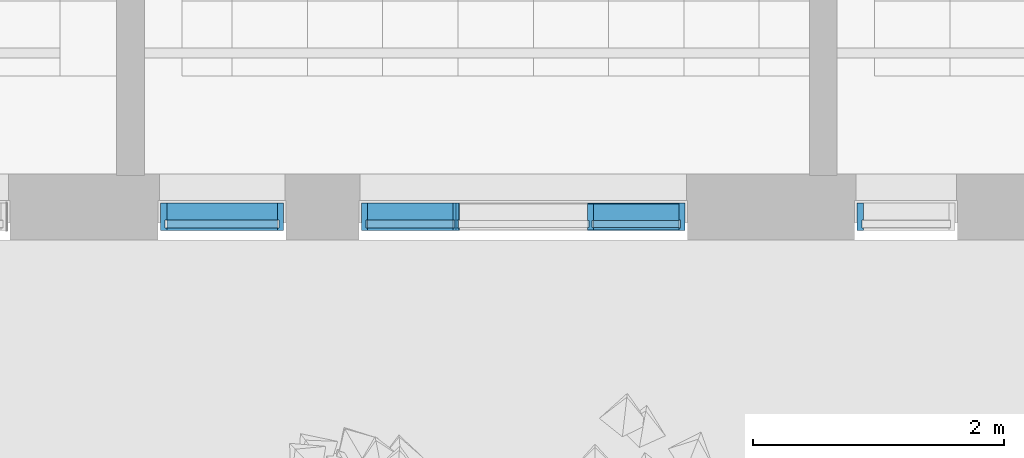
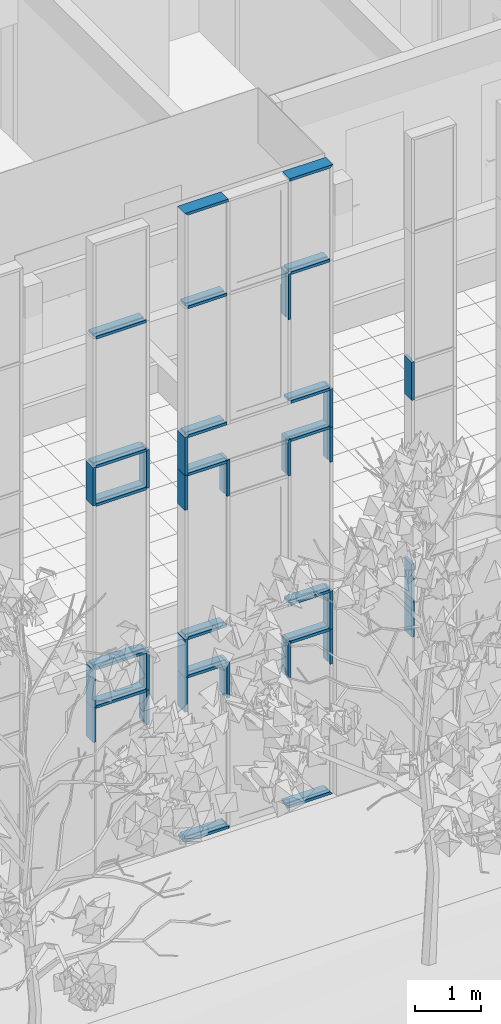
# One storey, part 40 of 246: 42 members, 3 elements without a shape of their own.
"""IFC2X3 building model written with IfcOpenShell, lengths in millimetres."""

from ifc_helpers import new_model, entity, si_unit, converted_unit, derived_unit, money_unit, direction, frame, origin_with_axes, place, context, subcontext, project, spatial, faceted_brep, source, transform, mapped, material, type_object, element, aggregate, save


model = new_model("IFC2X3")

# Units and contexts
model_context = context("Model", 3, precision=0.01, world=origin_with_axes(), true_north=direction((0.0, 1.0)))
body_context = subcontext(model_context, "Body", "Model", "MODEL_VIEW")
ifc_project = project(units=[si_unit("LENGTHUNIT", "METRE", prefix="MILLI"), si_unit("AREAUNIT", "SQUARE_METRE"), si_unit("VOLUMEUNIT", "CUBIC_METRE"), converted_unit("PLANEANGLEUNIT", "DEGREE", entity("IfcPlaneAngleMeasure", 0.0174532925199), si_unit("PLANEANGLEUNIT", "RADIAN"), dimensions=[0, 0, 0, 0, 0, 0, 0]), si_unit("SOLIDANGLEUNIT", "STERADIAN"), money_unit("EUR"), converted_unit("TIMEUNIT", "Year", entity("IfcTimeMeasure", 31556926.0), si_unit("TIMEUNIT", "SECOND"), dimensions=[0, 0, 1, 0, 0, 0, 0]), si_unit("MASSUNIT", "GRAM", prefix="KILO"), si_unit("THERMODYNAMICTEMPERATUREUNIT", "DEGREE_CELSIUS"), si_unit("LUMINOUSINTENSITYUNIT", "LUMEN"), si_unit("ENERGYUNIT", "JOULE", prefix="MEGA"), derived_unit("THERMALCONDUCTANCEUNIT", [(si_unit("POWERUNIT", "WATT"), 1), (si_unit("LENGTHUNIT", "METRE"), -1), (si_unit("THERMODYNAMICTEMPERATUREUNIT", "KELVIN"), -1)]), derived_unit("SPECIFICHEATCAPACITYUNIT", [(si_unit("ENERGYUNIT", "JOULE"), 1), (si_unit("MASSUNIT", "GRAM", prefix="KILO"), -1), (si_unit("THERMODYNAMICTEMPERATUREUNIT", "KELVIN"), -1)]), derived_unit("MASSDENSITYUNIT", [(si_unit("MASSUNIT", "GRAM", prefix="KILO"), 1), (si_unit("VOLUMEUNIT", "CUBIC_METRE"), -1)])], contexts=[model_context])

# Site, building, storey
site_placement = place(None, origin_with_axes())
site = spatial("IfcSite", under=ifc_project, at=site_placement, Name="L.Koidula tn 11b", CompositionType="ELEMENT")
building_placement = place(site_placement, origin_with_axes())
building = spatial("IfcBuilding", under=site, at=building_placement, Name="Rakvere Riigigümnaasium", CompositionType="ELEMENT")
storey_placement = place(building_placement, origin_with_axes())
storey = spatial("IfcBuildingStorey", under=building, at=storey_placement, Name="1.korrus 0,00", CompositionType="ELEMENT", Elevation=0.0)

# Curtain wall, members
curtain_wall_type = type_object("IfcCurtainWallType", Name="Curtain Wall Type", PredefinedType="NOTDEFINED")
curtain_wall_1_placement = place(storey_placement, frame((61650.0002269, 5111.45334637, -8.09717995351e-06), z_axis=(0.0, 0.0, 1.0), x_axis=(1.0, 0.0, 0.0)))
curtain_wall_1 = element("IfcCurtainWall", 1, at=curtain_wall_1_placement, inside=storey, type_object=curtain_wall_type, Name="KLF-05-4B")
ifc_material = material(Name="Alumiiniumprofiil (RAL 7021)")
member_type_1 = type_object("IfcMemberType", Name="Boundary Frame 50 x 222", PredefinedType="MULLION")
shared_shape_1 = source(origin_with_axes(), body_context, "Body", "Brep", [
    faceted_brep([(37.0, -32.5, 705.000000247), (37.0, 32.5, 705.000000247), (50.0, 32.5, 705.000000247), (50.0, 53.0, 705.000000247), (0.0, 53.0, 705.000000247), (0.0, -169.0, 705.000000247), (50.0, -169.0, 705.000000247), (50.0, -32.5, 705.000000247), (37.0, -32.5, 0.0), (37.0, 32.5, 0.0), (50.0, 32.5, 0.0), (50.0, 53.0, 0.0), (0.0, 53.0, 0.0), (0.0, -169.0, 0.0), (50.0, -169.0, 0.0), (50.0, -32.5, 0.0)], [[[0, 1, 2, 3, 4, 5, 6, 7]], [[1, 0, 8, 9]], [[10, 2, 1, 9]], [[2, 10, 11, 3]], [[12, 4, 3, 11]], [[13, 5, 4, 12]], [[14, 6, 5, 13]], [[15, 7, 6, 14]], [[0, 7, 15, 8]], [[8, 15, 14, 13, 12, 11, 10, 9]]]),
])
member_1_placement = place(curtain_wall_1_placement, frame((490.000170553, 0.0, 6760.0), z_axis=(0.0, 0.0, 1.0), x_axis=(-1.0, 0.0, 0.0)))
member_1 = element("IfcMember", 2, at=member_1_placement, type_object=member_type_1, material=ifc_material, Name="KLF-10", ObjectType="MULLION", context=body_context, shape_type="MappedRepresentation", body=[
    mapped(shared_shape_1, transform((0.0, 0.0, 0.0))),
])
member_2_placement = place(curtain_wall_1_placement, frame((490.000170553, 0.0, 3040.0), z_axis=(0.0, 0.0, 1.0), x_axis=(-1.0, 0.0, 0.0)))
member_2 = element("IfcMember", 3, at=member_2_placement, type_object=member_type_1, material=ifc_material, Name="KLF-08", ObjectType="MULLION", context=body_context, shape_type="MappedRepresentation", body=[
    mapped(shared_shape_1, transform((0.0, 0.0, 0.0))),
])

curtain_wall_2_placement = place(storey_placement, frame((63946.9084811, 5111.45334637, -8.0971711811e-06), z_axis=(0.0, 0.0, 1.0), x_axis=(1.0, 0.0, 0.0)))
curtain_wall_2 = element("IfcCurtainWall", 4, at=curtain_wall_2_placement, inside=storey, type_object=curtain_wall_type, Name="KLF-05-3B")
member_3_placement = place(curtain_wall_2_placement, frame((-1186.90871197, 0.0, 3745.0), z_axis=(0.0, 0.0, -1.0), x_axis=(1.0, 0.0, 0.0)))
member_3 = element("IfcMember", 5, at=member_3_placement, type_object=member_type_1, material=ifc_material, Name="KLF-05-9A-Profiilid", ObjectType="MULLION", context=body_context, shape_type="MappedRepresentation", body=[
    mapped(shared_shape_1, transform((0.0, 0.0, 0.0))),
])
member_4_placement = place(curtain_wall_2_placement, frame((-1186.90888468, 0.0, 7465.0), z_axis=(2.44971097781e-07, 0.0, -1.0), x_axis=(1.0, 0.0, 2.44971097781e-07)))
member_4 = element("IfcMember", 6, at=member_4_placement, type_object=member_type_1, material=ifc_material, Name="KLF-05-6A-Profiilid", ObjectType="MULLION", context=body_context, shape_type="MappedRepresentation", body=[
    mapped(shared_shape_1, transform((0.0, 0.0, 0.0))),
])
member_5_placement = place(curtain_wall_2_placement, frame((1393.0913307, 0.0, 6760.0), z_axis=(0.0, 0.0, 1.0), x_axis=(-1.0, 0.0, 0.0)))
member_5 = element("IfcMember", 7, at=member_5_placement, type_object=member_type_1, material=ifc_material, Name="KLF-05-8A-Profiilid", ObjectType="MULLION", context=body_context, shape_type="MappedRepresentation", body=[
    mapped(shared_shape_1, transform((0.0, 0.0, 0.0))),
])
member_6_placement = place(curtain_wall_2_placement, frame((1393.0913307, 0.0, 3040.0), z_axis=(0.0, 0.0, 1.0), x_axis=(-1.0, 0.0, 0.0)))
member_6 = element("IfcMember", 8, at=member_6_placement, type_object=member_type_1, material=ifc_material, Name="KLF-05-5A-Profiilid", ObjectType="MULLION", context=body_context, shape_type="MappedRepresentation", body=[
    mapped(shared_shape_1, transform((0.0, 0.0, 0.0))),
])

# Member
shared_shape_2 = source(origin_with_axes(), body_context, "Body", "Brep", [
    faceted_brep([(37.0, -32.5, 640.0), (37.0, 32.5, 640.0), (50.0, 32.5, 640.0), (50.0, 53.0, 640.0), (0.0, 53.0, 640.0), (0.0, -169.0, 640.0), (50.0, -169.0, 640.0), (50.0, -32.5, 640.0), (37.0, -32.5, 0.0), (37.0, 32.5, 0.0), (50.0, 32.5, 0.0), (50.0, 53.0, 0.0), (0.0, 53.0, 0.0), (0.0, -169.0, 0.0), (50.0, -169.0, 0.0), (50.0, -32.5, 0.0)], [[[0, 1, 2, 3, 4, 5, 6, 7]], [[1, 0, 8, 9]], [[10, 2, 1, 9]], [[2, 10, 11, 3]], [[12, 4, 3, 11]], [[13, 5, 4, 12]], [[14, 6, 5, 13]], [[15, 7, 6, 14]], [[0, 7, 15, 8]], [[8, 15, 14, 13, 12, 11, 10, 9]]]),
])
member_7_placement = place(curtain_wall_1_placement, frame((490.000170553, 0.0, 2400.0), z_axis=(0.0, 0.0, 1.0), x_axis=(-1.0, 0.0, 0.0)))
member_7 = element("IfcMember", 9, at=member_7_placement, type_object=member_type_1, material=ifc_material, Name="KLF-07", ObjectType="MULLION", context=body_context, shape_type="MappedRepresentation", body=[
    mapped(shared_shape_2, transform((0.0, 0.0, 0.0))),
])

member_8_placement = place(curtain_wall_2_placement, frame((-1186.90871197, 0.0, 3040.0), z_axis=(0.0, 0.0, -1.0), x_axis=(1.0, 0.0, 0.0)))
member_8 = element("IfcMember", 10, at=member_8_placement, type_object=member_type_1, material=ifc_material, Name="KLF-05-0A-Profiilid", ObjectType="MULLION", context=body_context, shape_type="MappedRepresentation", body=[
    mapped(shared_shape_2, transform((0.0, 0.0, 0.0))),
])

member_9_placement = place(curtain_wall_2_placement, frame((-1186.90871197, 0.0, 6760.0), z_axis=(0.0, 0.0, -1.0), x_axis=(1.0, 0.0, 0.0)))
member_9 = element("IfcMember", 11, at=member_9_placement, type_object=member_type_1, material=ifc_material, Name="KLF-05-7A-Profiilid", ObjectType="MULLION", context=body_context, shape_type="MappedRepresentation", body=[
    mapped(shared_shape_2, transform((0.0, 0.0, 0.0))),
])

member_10_placement = place(curtain_wall_2_placement, frame((1393.09127348, 0.0, 6120.0), z_axis=(8.94070373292e-08, 0.0, 1.0), x_axis=(-1.0, 0.0, 8.94070373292e-08)))
member_10 = element("IfcMember", 12, at=member_10_placement, type_object=member_type_1, material=ifc_material, Name="KLF-05-7A-Profiilid", ObjectType="MULLION", context=body_context, shape_type="MappedRepresentation", body=[
    mapped(shared_shape_2, transform((0.0, 0.0, 0.0))),
])

member_11_placement = place(curtain_wall_2_placement, frame((1393.09127348, 0.0, 2400.0), z_axis=(8.94070373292e-08, 0.0, 1.0), x_axis=(-1.0, 0.0, 8.94070373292e-08)))
member_11 = element("IfcMember", 13, at=member_11_placement, type_object=member_type_1, material=ifc_material, Name="KLF-05-4A-Profiilid", ObjectType="MULLION", context=body_context, shape_type="MappedRepresentation", body=[
    mapped(shared_shape_2, transform((0.0, 0.0, 0.0))),
])

# Curtain wall, members
curtain_wall_3_placement = place(storey_placement, frame((67100.0002798, 5111.45334637, -1.61944652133e-05), z_axis=(0.0, 0.0, 1.0), x_axis=(1.0, 0.0, 0.0)))
curtain_wall_3 = element("IfcCurtainWall", 14, at=curtain_wall_3_placement, inside=storey, type_object=curtain_wall_type, Name="KLF-05-4A")
shared_shape_3 = source(origin_with_axes(), body_context, "Body", "Brep", [
    faceted_brep([(-37.0, -32.5, 705.0), (-50.0, -32.5, 705.0), (-50.0, -169.0, 705.0), (0.0, -169.0, 705.0), (0.0, 53.0, 705.0), (-50.0, 53.0, 705.0), (-50.0, 32.5, 705.0), (-37.0, 32.5, 705.0), (-37.0, -32.5, 0.0), (-50.0, -32.5, 0.0), (-50.0, -169.0, 0.0), (0.0, -169.0, 0.0), (0.0, 53.0, 0.0), (-50.0, 53.0, 0.0), (-50.0, 32.5, 0.0), (-37.0, 32.5, 0.0)], [[[0, 1, 2, 3, 4, 5, 6, 7]], [[0, 8, 9, 1]], [[9, 10, 2, 1]], [[10, 11, 3, 2]], [[11, 12, 4, 3]], [[12, 13, 5, 4]], [[6, 5, 13, 14]], [[14, 15, 7, 6]], [[7, 15, 8, 0]], [[8, 15, 14, 13, 12, 11, 10, 9]]]),
])
member_12_placement = place(curtain_wall_3_placement, frame((-390.000197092, 0.0, 3040.0), z_axis=(0.0, 0.0, 1.0), x_axis=(-1.0, 0.0, 0.0)))
member_12 = element("IfcMember", 15, at=member_12_placement, type_object=member_type_1, material=ifc_material, Name="KLF-05-0A-Profiilid", ObjectType="MULLION", context=body_context, shape_type="MappedRepresentation", body=[
    mapped(shared_shape_3, transform((0.0, 0.0, 0.0))),
])
member_13_placement = place(curtain_wall_3_placement, frame((-390.000197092, 0.0, 6760.0), z_axis=(0.0, 0.0, 1.0), x_axis=(-1.0, 0.0, 0.0)))
member_13 = element("IfcMember", 16, at=member_13_placement, type_object=member_type_1, material=ifc_material, Name="KLF-05-8A-Profiilid", ObjectType="MULLION", context=body_context, shape_type="MappedRepresentation", body=[
    mapped(shared_shape_3, transform((0.0, 0.0, 0.0))),
])

# Member
member_14_placement = place(curtain_wall_1_placement, frame((-490.000127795, 0.0, 3040.0), z_axis=(0.0, 0.0, 1.0), x_axis=(-1.0, 0.0, 0.0)))
member_14 = element("IfcMember", 17, at=member_14_placement, type_object=member_type_1, material=ifc_material, Name="KLF-18", ObjectType="MULLION", context=body_context, shape_type="MappedRepresentation", body=[
    mapped(shared_shape_3, transform((0.0, 0.0, 0.0))),
])

member_15_placement = place(curtain_wall_1_placement, frame((-490.000127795, 0.0, 6760.0), z_axis=(0.0, 0.0, 1.0), x_axis=(-1.0, 0.0, 0.0)))
member_15 = element("IfcMember", 18, at=member_15_placement, type_object=member_type_1, material=ifc_material, Name="KLF-16", ObjectType="MULLION", context=body_context, shape_type="MappedRepresentation", body=[
    mapped(shared_shape_3, transform((0.0, 0.0, 0.0))),
])

shared_shape_4 = source(origin_with_axes(), body_context, "Body", "Brep", [
    faceted_brep([(-37.0, -32.5, 640.0), (-50.0, -32.5, 640.0), (-50.0, -169.0, 640.0), (0.0, -169.0, 640.0), (0.0, 53.0, 640.0), (-50.0, 53.0, 640.0), (-50.0, 32.5, 640.0), (-37.0, 32.5, 640.0), (-37.0, -32.5, 0.0), (-50.0, -32.5, 0.0), (-50.0, -169.0, 0.0), (0.0, -169.0, 0.0), (0.0, 53.0, 0.0), (-50.0, 53.0, 0.0), (-50.0, 32.5, 0.0), (-37.0, 32.5, 0.0)], [[[0, 1, 2, 3, 4, 5, 6, 7]], [[0, 8, 9, 1]], [[9, 10, 2, 1]], [[10, 11, 3, 2]], [[11, 12, 4, 3]], [[12, 13, 5, 4]], [[6, 5, 13, 14]], [[14, 15, 7, 6]], [[7, 15, 8, 0]], [[8, 15, 14, 13, 12, 11, 10, 9]]]),
])
member_16_placement = place(curtain_wall_3_placement, frame((-390.000197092, 0.0, 2400.0), z_axis=(0.0, 0.0, 1.0), x_axis=(-1.0, 0.0, 0.0)))
member_16 = element("IfcMember", 19, at=member_16_placement, type_object=member_type_1, material=ifc_material, Name="KLF-05-1A-Profiilid", ObjectType="MULLION", context=body_context, shape_type="MappedRepresentation", body=[
    mapped(shared_shape_4, transform((0.0, 0.0, 0.0))),
])

aggregate(curtain_wall_3, [member_16, member_12, member_13])

member_17_placement = place(curtain_wall_1_placement, frame((-490.000127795, 0.0, 2400.0), z_axis=(0.0, 0.0, 1.0), x_axis=(-1.0, 0.0, 0.0)))
member_17 = element("IfcMember", 20, at=member_17_placement, type_object=member_type_1, material=ifc_material, Name="KLF-19", ObjectType="MULLION", context=body_context, shape_type="MappedRepresentation", body=[
    mapped(shared_shape_4, transform((0.0, 0.0, 0.0))),
])

member_type_2 = type_object("IfcMemberType", Name="Mullion Frame 50 x 222", PredefinedType="MULLION")
shared_shape_5 = source(origin_with_axes(), body_context, "Body", "Brep", [
    faceted_brep([(-12.0, -32.5, 665.0), (-25.0, -32.5, 665.0), (-25.0, -169.0, 665.0), (25.0, -169.0, 665.0), (25.0, -32.5, 665.0), (12.0, -32.5, 665.0), (12.0, 32.5, 665.0), (25.0, 32.5, 665.0), (25.0, 53.0, 665.0), (-25.0, 53.0, 665.0), (-25.0, 32.5, 665.0), (-12.0, 32.5, 665.0), (-12.0, -32.5, 0.0), (-25.0, -32.5, 0.0), (-25.0, -169.0, 0.0), (25.0, -169.0, 0.0), (25.0, -32.5, 0.0), (12.0, -32.5, 0.0), (12.0, 32.5, 0.0), (25.0, 32.5, 0.0), (25.0, 53.0, 0.0), (-25.0, 53.0, 0.0), (-25.0, 32.5, 0.0), (-12.0, 32.5, 0.0)], [[[0, 1, 2, 3, 4, 5, 6, 7, 8, 9, 10, 11]], [[1, 0, 12, 13]], [[1, 13, 14, 2]], [[3, 2, 14, 15]], [[4, 3, 15, 16]], [[4, 16, 17, 5]], [[5, 17, 18, 6]], [[7, 6, 18, 19]], [[19, 20, 8, 7]], [[9, 8, 20, 21]], [[22, 10, 9, 21]], [[11, 10, 22, 23]], [[0, 11, 23, 12]], [[23, 22, 21, 20, 19, 18, 17, 16, 15, 14, 13, 12]]]),
])
member_18_placement = place(curtain_wall_2_placement, frame((-431.908628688, 0.0, 2400.0), z_axis=(0.0, 0.0, 1.0), x_axis=(-1.0, 0.0, 0.0)))
member_18 = element("IfcMember", 21, at=member_18_placement, type_object=member_type_2, material=ifc_material, Name="KLF-05-1A-Profiilid", ObjectType="MULLION", context=body_context, shape_type="MappedRepresentation", body=[
    mapped(shared_shape_5, transform((0.0, 0.0, 0.0))),
])

member_19_placement = place(curtain_wall_2_placement, frame((-431.908628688, 0.0, 6120.0), z_axis=(0.0, 0.0, 1.0), x_axis=(-1.0, 0.0, 0.0)))
member_19 = element("IfcMember", 22, at=member_19_placement, type_object=member_type_2, material=ifc_material, Name="KLF-05-8A-Profiilid", ObjectType="MULLION", context=body_context, shape_type="MappedRepresentation", body=[
    mapped(shared_shape_5, transform((0.0, 0.0, 0.0))),
])

member_type_3 = type_object("IfcMemberType", Name="50 x 208", PredefinedType="MULLION")
shared_shape_6 = source(origin_with_axes(), body_context, "Body", "Brep", [
    faceted_brep([(-12.0, -27.0, 665.0), (-25.0, -27.0, 665.0), (-25.0, -160.0, 665.0), (25.0, -160.0, 665.0), (25.0, -27.0, 665.0), (12.0, -27.0, 665.0), (12.0, 27.0, 665.0), (25.0, 27.0, 665.0), (25.0, 48.0, 665.0), (-25.0, 48.0, 665.0), (-25.0, 27.0, 665.0), (-12.0, 27.0, 665.0), (-12.0, -27.0, 0.0), (-25.0, -27.0, 0.0), (-25.0, -160.0, 0.0), (25.0, -160.0, 0.0), (25.0, -27.0, 0.0), (12.0, -27.0, 0.0), (12.0, 27.0, 0.0), (25.0, 27.0, 0.0), (25.0, 48.0, 0.0), (-25.0, 48.0, 0.0), (-25.0, 27.0, 0.0), (-12.0, 27.0, 0.0)], [[[0, 1, 2, 3, 4, 5, 6, 7, 8, 9, 10, 11]], [[1, 0, 12, 13]], [[1, 13, 14, 2]], [[3, 2, 14, 15]], [[4, 3, 15, 16]], [[4, 16, 17, 5]], [[5, 17, 18, 6]], [[7, 6, 18, 19]], [[19, 20, 8, 7]], [[9, 8, 20, 21]], [[22, 10, 9, 21]], [[11, 10, 22, 23]], [[0, 11, 23, 12]], [[23, 22, 21, 20, 19, 18, 17, 16, 15, 14, 13, 12]]]),
])
member_20_placement = place(curtain_wall_2_placement, frame((638.091371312, 0.0, 2400.0), z_axis=(0.0, 0.0, 1.0), x_axis=(-1.0, 0.0, 0.0)))
member_20 = element("IfcMember", 23, at=member_20_placement, type_object=member_type_3, material=ifc_material, Name="KLF-41", ObjectType="MULLION", context=body_context, shape_type="MappedRepresentation", body=[
    mapped(shared_shape_6, transform((0.0, 0.0, 0.0))),
])

member_21_placement = place(curtain_wall_2_placement, frame((638.091371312, 0.0, 6120.0), z_axis=(0.0, 0.0, 1.0), x_axis=(-1.0, 0.0, 0.0)))
member_21 = element("IfcMember", 24, at=member_21_placement, type_object=member_type_3, material=ifc_material, Name="KLF-96", ObjectType="MULLION", context=body_context, shape_type="MappedRepresentation", body=[
    mapped(shared_shape_6, transform((0.0, 0.0, 0.0))),
])

member_type_4 = type_object("IfcMemberType", Name="Transom Frame 50 x 222", PredefinedType="MULLION")
shared_shape_7 = source(origin_with_axes(), body_context, "Body", "Brep", [
    faceted_brep([(-12.0, -32.5, 730.000255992), (-25.0, -32.5, 730.000255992), (-25.0, -169.0, 730.000255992), (25.0, -169.0, 730.000255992), (25.0, -32.5, 730.000255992), (12.0, -32.5, 730.000255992), (12.0, 32.5, 730.000255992), (25.0, 32.5, 730.000255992), (25.0, 53.0, 730.000255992), (-25.0, 53.0, 730.000255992), (-25.0, 32.5, 730.000255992), (-12.0, 32.5, 730.000255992), (-12.0, -32.5, 50.0), (-25.0, -32.5, 50.0), (-25.0, -169.0, 50.0), (25.0, -169.0, 50.0), (25.0, -32.5, 50.0), (12.0, -32.5, 50.0), (12.0, 32.5, 50.0), (25.0, 32.5, 50.0), (25.0, 53.0, 50.0), (-25.0, 53.0, 50.0), (-25.0, 32.5, 50.0), (-12.0, 32.5, 50.0)], [[[0, 1, 2, 3, 4, 5, 6, 7, 8, 9, 10, 11]], [[1, 0, 12, 13]], [[1, 13, 14, 2]], [[2, 14, 15, 3]], [[4, 3, 15, 16]], [[4, 16, 17, 5]], [[5, 17, 18, 6]], [[7, 6, 18, 19]], [[19, 20, 8, 7]], [[8, 20, 21, 9]], [[22, 10, 9, 21]], [[11, 10, 22, 23]], [[0, 11, 23, 12]], [[23, 22, 21, 20, 19, 18, 17, 16, 15, 14, 13, 12]]]),
])
member_22_placement = place(curtain_wall_2_placement, frame((-1186.90888468, 0.0, 7465.0), z_axis=(1.0, 0.0, 0.0), x_axis=(0.0, 0.0, 1.0)))
member_22 = element("IfcMember", 25, at=member_22_placement, type_object=member_type_4, material=ifc_material, Name="KLF-05-2A-Profiilid", ObjectType="MULLION", context=body_context, shape_type="MappedRepresentation", body=[
    mapped(shared_shape_7, transform((0.0, 0.0, 0.0))),
])

member_23_placement = place(curtain_wall_2_placement, frame((-1186.90871197, 0.0, 6760.0), z_axis=(1.0, 0.0, 0.0), x_axis=(0.0, 0.0, 1.0)))
member_23 = element("IfcMember", 26, at=member_23_placement, type_object=member_type_4, material=ifc_material, Name="KLF-05-0A-Profiilid", ObjectType="MULLION", context=body_context, shape_type="MappedRepresentation", body=[
    mapped(shared_shape_7, transform((0.0, 0.0, 0.0))),
])

member_24_placement = place(curtain_wall_2_placement, frame((-1186.90888468, 0.0, 9840.0), z_axis=(1.0, 0.0, 0.0), x_axis=(0.0, 0.0, 1.0)))
member_24 = element("IfcMember", 27, at=member_24_placement, type_object=member_type_4, material=ifc_material, Name="KLF-05-4A-Profiilid", ObjectType="MULLION", context=body_context, shape_type="MappedRepresentation", body=[
    mapped(shared_shape_7, transform((0.0, 0.0, 0.0))),
])

member_25_placement = place(curtain_wall_2_placement, frame((-1186.90871197, 0.0, 3745.0), z_axis=(1.0, 0.0, 0.0), x_axis=(0.0, 0.0, 1.0)))
member_25 = element("IfcMember", 28, at=member_25_placement, type_object=member_type_4, material=ifc_material, Name="KLF-05-6A-Profiilid", ObjectType="MULLION", context=body_context, shape_type="MappedRepresentation", body=[
    mapped(shared_shape_7, transform((0.0, 0.0, 0.0))),
])

member_26_placement = place(curtain_wall_2_placement, frame((-1186.90871197, 0.0, 3040.0), z_axis=(1.0, 0.0, 0.0), x_axis=(0.0, 0.0, 1.0)))
member_26 = element("IfcMember", 29, at=member_26_placement, type_object=member_type_4, material=ifc_material, Name="KLF-05-0A-Profiilid", ObjectType="MULLION", context=body_context, shape_type="MappedRepresentation", body=[
    mapped(shared_shape_7, transform((0.0, 0.0, 0.0))),
])

shared_shape_8 = source(origin_with_axes(), body_context, "Body", "Brep", [
    faceted_brep([(-12.0, -27.0, 704.999959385), (-25.0, -27.0, 704.999959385), (-25.0, -160.0, 704.999959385), (25.0, -160.0, 704.999959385), (25.0, -27.0, 704.999959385), (12.0, -27.0, 704.999959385), (12.0, 27.0, 704.999959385), (25.0, 27.0, 704.999959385), (25.0, 48.0, 704.999959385), (-25.0, 48.0, 704.999959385), (-25.0, 27.0, 704.999959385), (-12.0, 27.0, 704.999959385), (-12.0, -27.0, 25.0), (-25.0, -27.0, 25.0), (-25.0, -160.0, 25.0), (25.0, -160.0, 25.0), (25.0, -27.0, 25.0), (12.0, -27.0, 25.0), (12.0, 27.0, 25.0), (25.0, 27.0, 25.0), (25.0, 48.0, 25.0), (-25.0, 48.0, 25.0), (-25.0, 27.0, 25.0), (-12.0, 27.0, 25.0)], [[[0, 1, 2, 3, 4, 5, 6, 7, 8, 9, 10, 11]], [[1, 0, 12, 13]], [[1, 13, 14, 2]], [[2, 14, 15, 3]], [[4, 3, 15, 16]], [[4, 16, 17, 5]], [[5, 17, 18, 6]], [[7, 6, 18, 19]], [[19, 20, 8, 7]], [[8, 20, 21, 9]], [[22, 10, 9, 21]], [[11, 10, 22, 23]], [[0, 11, 23, 12]], [[23, 22, 21, 20, 19, 18, 17, 16, 15, 14, 13, 12]]]),
])
member_27_placement = place(curtain_wall_2_placement, frame((638.091371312, 0.0, 7465.0), z_axis=(1.0, 0.0, 0.0), x_axis=(0.0, 0.0, 1.0)))
member_27 = element("IfcMember", 30, at=member_27_placement, type_object=member_type_3, material=ifc_material, Name="KLF-57", ObjectType="MULLION", context=body_context, shape_type="MappedRepresentation", body=[
    mapped(shared_shape_8, transform((0.0, 0.0, 0.0))),
])

member_28_placement = place(curtain_wall_2_placement, frame((638.091371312, 0.0, 6760.0), z_axis=(1.0, 0.0, 0.0), x_axis=(0.0, 0.0, 1.0)))
member_28 = element("IfcMember", 31, at=member_28_placement, type_object=member_type_3, material=ifc_material, Name="KLF-33", ObjectType="MULLION", context=body_context, shape_type="MappedRepresentation", body=[
    mapped(shared_shape_8, transform((0.0, 0.0, 0.0))),
])

member_29_placement = place(curtain_wall_2_placement, frame((638.091371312, 0.0, 3745.0), z_axis=(1.0, 0.0, 0.0), x_axis=(0.0, 0.0, 1.0)))
member_29 = element("IfcMember", 32, at=member_29_placement, type_object=member_type_3, material=ifc_material, Name="KLF-08", ObjectType="MULLION", context=body_context, shape_type="MappedRepresentation", body=[
    mapped(shared_shape_8, transform((0.0, 0.0, 0.0))),
])

member_30_placement = place(curtain_wall_2_placement, frame((638.091371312, 0.0, 3040.0), z_axis=(1.0, 0.0, 0.0), x_axis=(0.0, 0.0, 1.0)))
member_30 = element("IfcMember", 33, at=member_30_placement, type_object=member_type_3, material=ifc_material, Name="KLF-09", ObjectType="MULLION", context=body_context, shape_type="MappedRepresentation", body=[
    mapped(shared_shape_8, transform((0.0, 0.0, 0.0))),
])

shared_shape_9 = source(origin_with_axes(), body_context, "Body", "Brep", [
    faceted_brep([(-12.0, -32.5, 930.000298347), (-25.0, -32.5, 930.000298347), (-25.0, -169.0, 930.000298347), (25.0, -169.0, 930.000298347), (25.0, -32.5, 930.000298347), (12.0, -32.5, 930.000298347), (12.0, 32.5, 930.000298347), (25.0, 32.5, 930.000298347), (25.0, 53.0, 930.000298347), (-25.0, 53.0, 930.000298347), (-25.0, 32.5, 930.000298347), (-12.0, 32.5, 930.000298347), (-12.0, -32.5, 50.0), (-25.0, -32.5, 50.0), (-25.0, -169.0, 50.0), (25.0, -169.0, 50.0), (25.0, -32.5, 50.0), (12.0, -32.5, 50.0), (12.0, 32.5, 50.0), (25.0, 32.5, 50.0), (25.0, 53.0, 50.0), (-25.0, 53.0, 50.0), (-25.0, 32.5, 50.0), (-12.0, 32.5, 50.0)], [[[0, 1, 2, 3, 4, 5, 6, 7, 8, 9, 10, 11]], [[1, 0, 12, 13]], [[1, 13, 14, 2]], [[2, 14, 15, 3]], [[4, 3, 15, 16]], [[4, 16, 17, 5]], [[5, 17, 18, 6]], [[7, 6, 18, 19]], [[19, 20, 8, 7]], [[8, 20, 21, 9]], [[22, 10, 9, 21]], [[11, 10, 22, 23]], [[0, 11, 23, 12]], [[23, 22, 21, 20, 19, 18, 17, 16, 15, 14, 13, 12]]]),
])
member_31_placement = place(curtain_wall_1_placement, frame((-490.000127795, 0.0, 9840.0), z_axis=(1.0, 0.0, 0.0), x_axis=(0.0, 0.0, 1.0)))
member_31 = element("IfcMember", 34, at=member_31_placement, type_object=member_type_4, material=ifc_material, Name="KLF-50", ObjectType="MULLION", context=body_context, shape_type="MappedRepresentation", body=[
    mapped(shared_shape_9, transform((0.0, 0.0, 0.0))),
])

member_32_placement = place(curtain_wall_1_placement, frame((-490.000127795, 0.0, 7465.0), z_axis=(1.0, 0.0, 0.0), x_axis=(0.0, 0.0, 1.0)))
member_32 = element("IfcMember", 35, at=member_32_placement, type_object=member_type_4, material=ifc_material, Name="KLF-51", ObjectType="MULLION", context=body_context, shape_type="MappedRepresentation", body=[
    mapped(shared_shape_9, transform((0.0, 0.0, 0.0))),
])

member_33_placement = place(curtain_wall_1_placement, frame((-490.000127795, 0.0, 6760.0), z_axis=(1.0, 0.0, 0.0), x_axis=(0.0, 0.0, 1.0)))
member_33 = element("IfcMember", 36, at=member_33_placement, type_object=member_type_4, material=ifc_material, Name="KLF-52", ObjectType="MULLION", context=body_context, shape_type="MappedRepresentation", body=[
    mapped(shared_shape_9, transform((0.0, 0.0, 0.0))),
])

member_34_placement = place(curtain_wall_1_placement, frame((-490.000127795, 0.0, 3745.0), z_axis=(1.0, 0.0, 0.0), x_axis=(0.0, 0.0, 1.0)))
member_34 = element("IfcMember", 37, at=member_34_placement, type_object=member_type_4, material=ifc_material, Name="KLF-67", ObjectType="MULLION", context=body_context, shape_type="MappedRepresentation", body=[
    mapped(shared_shape_9, transform((0.0, 0.0, 0.0))),
])

member_35_placement = place(curtain_wall_1_placement, frame((-490.000127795, 0.0, 3040.0), z_axis=(1.0, 0.0, 0.0), x_axis=(0.0, 0.0, 1.0)))
member_35 = element("IfcMember", 38, at=member_35_placement, type_object=member_type_4, material=ifc_material, Name="KLF-68", ObjectType="MULLION", context=body_context, shape_type="MappedRepresentation", body=[
    mapped(shared_shape_9, transform((0.0, 0.0, 0.0))),
])

aggregate(curtain_wall_1, [member_17, member_14, member_15, member_31, member_32, member_33, member_1, member_34, member_2, member_35, member_7])

shared_shape_10 = source(origin_with_axes(), body_context, "Body", "Brep", [
    faceted_brep([(-12.0, -32.5, 840.0), (-25.0, -32.5, 840.0), (-25.0, -169.0, 840.0), (25.0, -169.0, 840.0), (25.0, -32.5, 840.0), (12.0, -32.5, 840.0), (12.0, 32.5, 840.0), (25.0, 32.5, 840.0), (25.0, 53.0, 840.0), (-25.0, 53.0, 840.0), (-25.0, 32.5, 840.0), (-12.0, 32.5, 840.0), (-12.0, -32.5, 0.0), (-25.0, -32.5, 0.0), (-25.0, -169.0, 0.0), (25.0, -169.0, 0.0), (25.0, -32.5, 0.0), (12.0, -32.5, 0.0), (12.0, 32.5, 0.0), (25.0, 32.5, 0.0), (25.0, 53.0, 0.0), (-25.0, 53.0, 0.0), (-25.0, 32.5, 0.0), (-12.0, 32.5, 0.0)], [[[0, 1, 2, 3, 4, 5, 6, 7, 8, 9, 10, 11]], [[1, 0, 12, 13]], [[1, 13, 14, 2]], [[3, 2, 14, 15]], [[4, 3, 15, 16]], [[4, 16, 17, 5]], [[5, 17, 18, 6]], [[7, 6, 18, 19]], [[19, 20, 8, 7]], [[9, 8, 20, 21]], [[22, 10, 9, 21]], [[11, 10, 22, 23]], [[0, 11, 23, 12]], [[23, 22, 21, 20, 19, 18, 17, 16, 15, 14, 13, 12]]]),
])
member_36_placement = place(curtain_wall_2_placement, frame((638.091371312, 0.0, 9000.0), z_axis=(0.0, 0.0, 1.0), x_axis=(-1.0, 0.0, 0.0)))
member_36 = element("IfcMember", 39, at=member_36_placement, type_object=member_type_2, material=ifc_material, Name="KLF-05-3A-Profiilid", ObjectType="MULLION", context=body_context, shape_type="MappedRepresentation", body=[
    mapped(shared_shape_10, transform((0.0, 0.0, 0.0))),
])

shared_shape_11 = source(origin_with_axes(), body_context, "Body", "Brep", [
    faceted_brep([(37.0, -32.5, 755.000083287), (37.0, 32.5, 755.000083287), (50.0, 32.5, 755.000083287), (50.0, 53.0, 755.000083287), (0.0, 53.0, 755.000083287), (0.0, -169.0, 755.000083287), (50.0, -169.0, 755.000083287), (50.0, -32.5, 755.000083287), (37.0, -32.5, 37.0), (37.0, 32.5, 37.0), (50.0, 32.5, 50.0), (50.0, 53.0, 50.0), (0.0, 53.0, 0.0), (0.0, -169.0, 0.0), (50.0, -169.0, 50.0), (50.0, -32.5, 50.0)], [[[0, 1, 2, 3, 4, 5, 6, 7]], [[1, 0, 8, 9]], [[10, 2, 1, 9]], [[2, 10, 11, 3]], [[4, 3, 11, 12]], [[5, 4, 12, 13]], [[6, 5, 13, 14]], [[15, 7, 6, 14]], [[0, 7, 15, 8]], [[8, 15, 14, 13, 12, 11, 10, 9]]]),
])
member_37_placement = place(curtain_wall_2_placement, frame((-1186.90871197, 0.0, 0.0), z_axis=(1.0, 0.0, 0.0), x_axis=(0.0, 0.0, 1.0)))
member_37 = element("IfcMember", 40, at=member_37_placement, type_object=member_type_1, material=ifc_material, Name="KLF-05-0A-Profiilid", ObjectType="MULLION", context=body_context, shape_type="MappedRepresentation", body=[
    mapped(shared_shape_11, transform((0.0, 0.0, 0.0))),
])

member_38_placement = place(curtain_wall_2_placement, frame((1393.09130904, 0.0, 11590.0000411), z_axis=(-1.0, 0.0, 0.0), x_axis=(0.0, 0.0, -1.0)))
member_38 = element("IfcMember", 41, at=member_38_placement, type_object=member_type_1, material=ifc_material, Name="KLF-05-1A-Profiilid", ObjectType="MULLION", context=body_context, shape_type="MappedRepresentation", body=[
    mapped(shared_shape_11, transform((0.0, 0.0, 0.0))),
])

shared_shape_12 = source(origin_with_axes(), body_context, "Body", "Brep", [
    faceted_brep([(37.0, -32.5, 19.5432673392), (37.0, 32.5, 19.5432673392), (50.0, 32.5, 19.5432673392), (50.0, 53.0, 19.5432673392), (0.0, 53.0, 19.5432673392), (0.0, -169.0, 19.5432673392), (50.0, -169.0, 19.5432673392), (50.0, -32.5, 19.5432673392), (37.0, -32.5, 0.0), (37.0, 32.5, 0.0), (50.0, 32.5, 0.0), (50.0, 53.0, 0.0), (0.0, 53.0, 0.0), (0.0, -169.0, 0.0), (50.0, -169.0, 0.0), (50.0, -32.5, 0.0)], [[[0, 1, 2, 3, 4, 5, 6, 7]], [[1, 0, 8, 9]], [[10, 2, 1, 9]], [[2, 10, 11, 3]], [[12, 4, 3, 11]], [[13, 5, 4, 12]], [[14, 6, 5, 13]], [[15, 7, 6, 14]], [[0, 7, 15, 8]], [[8, 15, 14, 13, 12, 11, 10, 9]]]),
])
member_39_placement = place(curtain_wall_2_placement, frame((-431.908628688, 0.0, 0.0), z_axis=(1.0, 0.0, 0.0), x_axis=(0.0, 0.0, 1.0)))
member_39 = element("IfcMember", 42, at=member_39_placement, type_object=member_type_1, material=ifc_material, Name="KLF-05-1A-Profiilid", ObjectType="MULLION", context=body_context, shape_type="MappedRepresentation", body=[
    mapped(shared_shape_12, transform((0.0, 0.0, 0.0))),
])

shared_shape_13 = source(origin_with_axes(), body_context, "Body", "Brep", [
    faceted_brep([(37.0, -27.0, 717.999958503), (37.0, 27.0, 717.999958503), (50.0, 27.0, 704.999958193), (50.0, 48.0, 704.999958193), (0.0, 48.0, 754.999959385), (0.0, -160.0, 754.999959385), (50.0, -160.0, 704.999958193), (50.0, -27.0, 704.999958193), (37.0, -27.0, -25.0), (37.0, 27.0, -25.0), (50.0, 27.0, -25.0), (50.0, 48.0, -25.0), (0.0, 48.0, -25.0), (0.0, -160.0, -25.0), (50.0, -160.0, -25.0), (50.0, -27.0, -25.0)], [[[0, 1, 2, 3, 4, 5, 6, 7]], [[1, 0, 8, 9]], [[10, 2, 1, 9]], [[2, 10, 11, 3]], [[12, 4, 3, 11]], [[13, 5, 4, 12]], [[14, 6, 5, 13]], [[15, 7, 6, 14]], [[0, 7, 15, 8]], [[8, 15, 14, 13, 12, 11, 10, 9]]]),
])
member_40_placement = place(curtain_wall_2_placement, frame((638.091371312, 0.0, 0.0), z_axis=(1.0, 0.0, 0.0), x_axis=(0.0, 0.0, 1.0)))
member_40 = element("IfcMember", 43, at=member_40_placement, type_object=member_type_3, material=ifc_material, Name="KLF-55", ObjectType="MULLION", context=body_context, shape_type="MappedRepresentation", body=[
    mapped(shared_shape_13, transform((0.0, 0.0, 0.0))),
])

shared_shape_14 = source(origin_with_axes(), body_context, "Body", "Brep", [
    faceted_brep([(-12.0, -32.5, 704.99994074), (-25.0, -32.5, 704.99994074), (-25.0, -169.0, 704.999939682), (25.0, -169.0, 704.999939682), (25.0, -32.5, 704.99994074), (12.0, -32.5, 704.99994074), (12.0, 32.5, 704.999941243), (25.0, 32.5, 704.999941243), (25.0, 53.0, 704.999941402), (-25.0, 53.0, 704.999941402), (-25.0, 32.5, 704.999941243), (-12.0, 32.5, 704.999941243), (-12.0, -32.5, 25.0), (-25.0, -32.5, 25.0), (-25.0, -169.0, 25.0), (25.0, -169.0, 25.0), (25.0, -32.5, 25.0), (12.0, -32.5, 25.0), (12.0, 32.5, 25.0), (25.0, 32.5, 25.0), (25.0, 53.0, 25.0), (-25.0, 53.0, 25.0), (-25.0, 32.5, 25.0), (-12.0, 32.5, 25.0)], [[[0, 1, 2, 3, 4, 5, 6, 7, 8, 9, 10, 11]], [[1, 0, 12, 13]], [[1, 13, 14, 2]], [[2, 14, 15, 3]], [[4, 3, 15, 16]], [[4, 16, 17, 5]], [[5, 17, 18, 6]], [[7, 6, 18, 19]], [[19, 20, 8, 7]], [[8, 20, 21, 9]], [[22, 10, 9, 21]], [[11, 10, 22, 23]], [[0, 11, 23, 12]], [[23, 22, 21, 20, 19, 18, 17, 16, 15, 14, 13, 12]]]),
])
member_41_placement = place(curtain_wall_2_placement, frame((638.091371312, 0.0, 9840.0), z_axis=(1.0, 0.0, 0.0), x_axis=(0.0, 0.0, 1.0)))
member_41 = element("IfcMember", 44, at=member_41_placement, type_object=member_type_4, material=ifc_material, Name="KLF-05-1A-Profiilid", ObjectType="MULLION", context=body_context, shape_type="MappedRepresentation", body=[
    mapped(shared_shape_14, transform((0.0, 0.0, 0.0))),
])

shared_shape_15 = source(origin_with_axes(), body_context, "Body", "Brep", [
    faceted_brep([(37.0, -32.5, 718.000273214), (37.0, 32.5, 718.000273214), (50.0, 32.5, 705.000273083), (50.0, 53.0, 705.000273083), (0.0, 53.0, 755.000273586), (0.0, -169.0, 755.000273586), (50.0, -169.0, 705.000273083), (50.0, -32.5, 705.000273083), (37.0, -32.5, 0.0), (37.0, 32.5, 0.0), (50.0, 32.5, 0.0), (50.0, 53.0, 0.0), (0.0, 53.0, 0.0), (0.0, -169.0, 0.0), (50.0, -169.0, 0.0), (50.0, -32.5, 0.0)], [[[0, 1, 2, 3, 4, 5, 6, 7]], [[1, 0, 8, 9]], [[10, 2, 1, 9]], [[2, 10, 11, 3]], [[12, 4, 3, 11]], [[13, 5, 4, 12]], [[14, 6, 5, 13]], [[15, 7, 6, 14]], [[0, 7, 15, 8]], [[8, 15, 14, 13, 12, 11, 10, 9]]]),
])
member_42_placement = place(curtain_wall_2_placement, frame((-431.908628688, 0.0, 11590.0000411), z_axis=(-1.0, 0.0, 0.0), x_axis=(0.0, 0.0, -1.0)))
member_42 = element("IfcMember", 45, at=member_42_placement, type_object=member_type_1, material=ifc_material, Name="KLF-05-3A-Profiilid", ObjectType="MULLION", context=body_context, shape_type="MappedRepresentation", body=[
    mapped(shared_shape_15, transform((0.0, 0.0, 0.0))),
])

aggregate(curtain_wall_2, [member_20, member_21, member_36, member_18, member_19, member_39, member_27, member_28, member_29, member_30, member_40, member_22, member_23, member_37, member_24, member_25, member_26, member_8, member_3, member_9, member_4, member_41, member_5, member_10, member_6, member_11, member_42, member_38])

save(model, "model.ifc")
